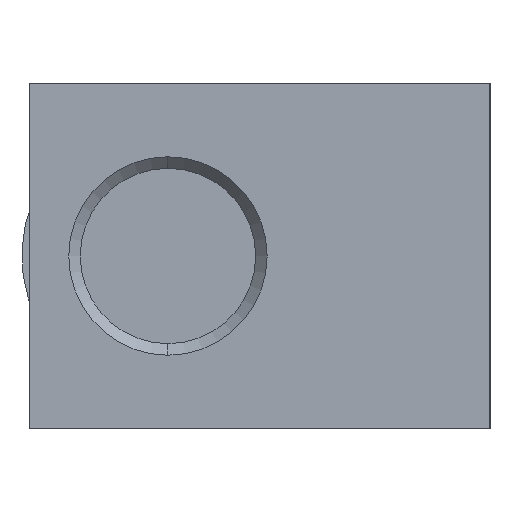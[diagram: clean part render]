
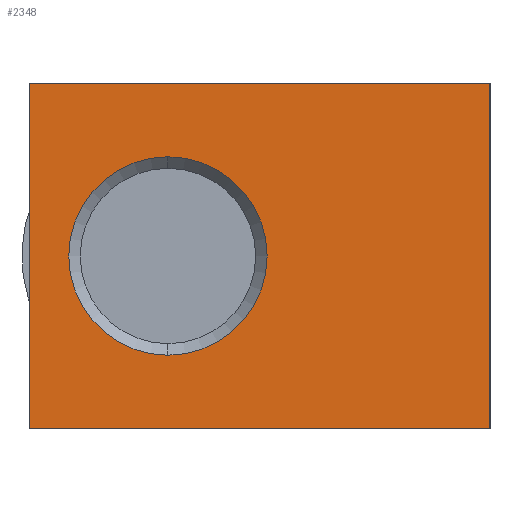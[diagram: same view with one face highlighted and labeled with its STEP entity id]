
A CAD part, left-side view. The second image highlights one B-rep face of the part: STEP entity #2348.
In plain terms, the highlighted planar face has unit normal (-1, 0, 0) as drawn and (1, 0, 0) by its records, which use the part's own axes.
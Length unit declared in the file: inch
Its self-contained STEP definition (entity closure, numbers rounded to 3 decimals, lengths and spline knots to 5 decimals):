
#16 = CARTESIAN_POINT ( 'NONE',  ( 1.83071, 0.7874, 0.59055 ) ) ;
#38 = CARTESIAN_POINT ( 'NONE',  ( 1.83071, -0.31496, 0. ) ) ;
#40 = PLANE ( 'NONE',  #1605 ) ;
#105 = AXIS2_PLACEMENT_3D ( 'NONE', #696, #1462, #497 ) ;
#202 = VERTEX_POINT ( 'NONE', #1880 ) ;
#232 = CARTESIAN_POINT ( 'NONE',  ( 1.83071, 0.7874, 0.59055 ) ) ;
#311 = CIRCLE ( 'NONE', #964, 0.33957 ) ;
#435 = LINE ( 'NONE', #232, #709 ) ;
#497 = DIRECTION ( 'NONE',  ( 0., 0., -1. ) ) ;
#532 = ORIENTED_EDGE ( 'NONE', *, *, #935, .T. ) ;
#564 = LINE ( 'NONE', #1336, #715 ) ;
#569 = VERTEX_POINT ( 'NONE', #1603 ) ;
#599 = EDGE_LOOP ( 'NONE', ( #532, #2205 ) ) ;
#696 = CARTESIAN_POINT ( 'NONE',  ( 1.83071, -0.31496, 0. ) ) ;
#709 = VECTOR ( 'NONE', #2185, 39.37008 ) ;
#715 = VECTOR ( 'NONE', #775, 39.37008 ) ;
#739 = LINE ( 'NONE', #1867, #1893 ) ;
#765 = LINE ( 'NONE', #1927, #1850 ) ;
#775 = DIRECTION ( 'NONE',  ( 0., -1., 0. ) ) ;
#910 = VERTEX_POINT ( 'NONE', #1905 ) ;
#935 = EDGE_CURVE ( 'NONE', #910, #2232, #1198, .T. ) ;
#964 = AXIS2_PLACEMENT_3D ( 'NONE', #38, #1819, #2346 ) ;
#981 = EDGE_CURVE ( 'NONE', #202, #569, #765, .T. ) ;
#1042 = ORIENTED_EDGE ( 'NONE', *, *, #981, .T. ) ;
#1150 = EDGE_CURVE ( 'NONE', #569, #1864, #435, .T. ) ;
#1183 = CARTESIAN_POINT ( 'NONE',  ( 1.83071, -0.7874, 0.59055 ) ) ;
#1198 = CIRCLE ( 'NONE', #105, 0.33957 ) ;
#1336 = CARTESIAN_POINT ( 'NONE',  ( 1.83071, 0.7874, 0.59055 ) ) ;
#1359 = CARTESIAN_POINT ( 'NONE',  ( 1.83071, -0.31496, -0.33957 ) ) ;
#1387 = DIRECTION ( 'NONE',  ( 0., 1., 0. ) ) ;
#1392 = CARTESIAN_POINT ( 'NONE',  ( 1.83071, 0., 0. ) ) ;
#1449 = VERTEX_POINT ( 'NONE', #1183 ) ;
#1462 = DIRECTION ( 'NONE',  ( -1., 0., 0. ) ) ;
#1553 = EDGE_CURVE ( 'NONE', #1449, #202, #739, .T. ) ;
#1573 = FACE_OUTER_BOUND ( 'NONE', #2374, .T. ) ;
#1592 = DIRECTION ( 'NONE',  ( 0., 1., 0. ) ) ;
#1603 = CARTESIAN_POINT ( 'NONE',  ( 1.83071, 0.7874, -0.59055 ) ) ;
#1605 = AXIS2_PLACEMENT_3D ( 'NONE', #1392, #2003, #1592 ) ;
#1631 = EDGE_CURVE ( 'NONE', #1864, #1449, #564, .T. ) ;
#1765 = FACE_BOUND ( 'NONE', #599, .T. ) ;
#1819 = DIRECTION ( 'NONE',  ( -1., 0., 0. ) ) ;
#1850 = VECTOR ( 'NONE', #1387, 39.37008 ) ;
#1864 = VERTEX_POINT ( 'NONE', #16 ) ;
#1867 = CARTESIAN_POINT ( 'NONE',  ( 1.83071, -0.7874, 0.59055 ) ) ;
#1880 = CARTESIAN_POINT ( 'NONE',  ( 1.83071, -0.7874, -0.59055 ) ) ;
#1893 = VECTOR ( 'NONE', #2226, 39.37008 ) ;
#1905 = CARTESIAN_POINT ( 'NONE',  ( 1.83071, -0.31496, 0.33957 ) ) ;
#1927 = CARTESIAN_POINT ( 'NONE',  ( 1.83071, 0.7874, -0.59055 ) ) ;
#2003 = DIRECTION ( 'NONE',  ( 1., 0., 0. ) ) ;
#2028 = EDGE_CURVE ( 'NONE', #2232, #910, #311, .T. ) ;
#2049 = ORIENTED_EDGE ( 'NONE', *, *, #1553, .T. ) ;
#2185 = DIRECTION ( 'NONE',  ( 0., 0., 1. ) ) ;
#2205 = ORIENTED_EDGE ( 'NONE', *, *, #2028, .T. ) ;
#2226 = DIRECTION ( 'NONE',  ( 0., 0., -1. ) ) ;
#2232 = VERTEX_POINT ( 'NONE', #1359 ) ;
#2301 = ORIENTED_EDGE ( 'NONE', *, *, #1150, .T. ) ;
#2341 = ORIENTED_EDGE ( 'NONE', *, *, #1631, .T. ) ;
#2346 = DIRECTION ( 'NONE',  ( 0., 0., -1. ) ) ;
#2348 = ADVANCED_FACE ( 'NONE', ( #1573, #1765 ), #40, .T. ) ;
#2374 = EDGE_LOOP ( 'NONE', ( #2341, #2049, #1042, #2301 ) ) ;
